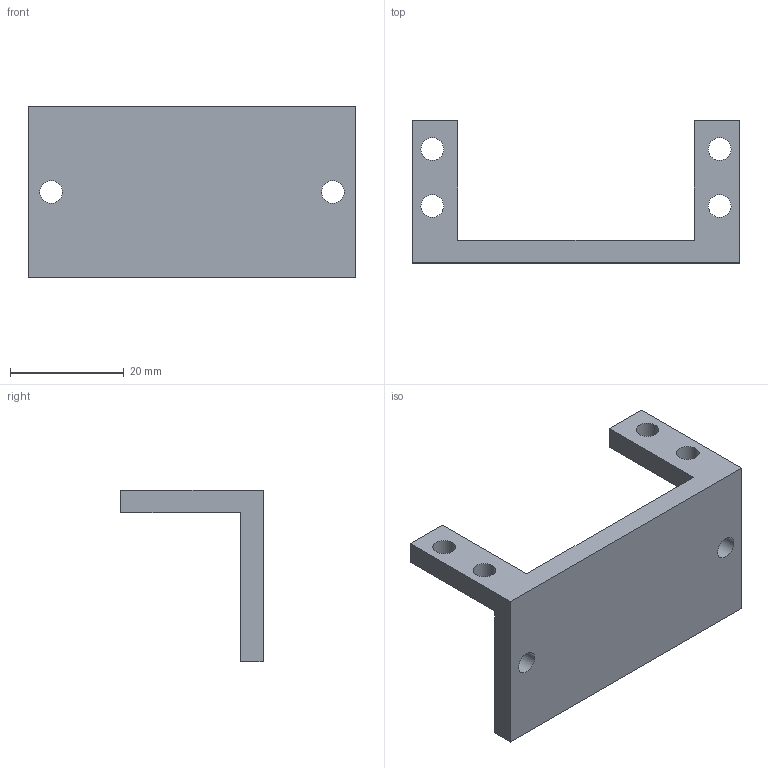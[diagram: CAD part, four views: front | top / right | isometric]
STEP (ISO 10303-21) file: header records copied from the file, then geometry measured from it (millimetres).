
FILE_DESCRIPTION(/* description */ ('STEP AP242','CAx-IF Rec.Pracs.---Representation and Presentation of Product Manufacturing Information (PMI)---4.0---2014-10-13','CAx-IF Rec.Pracs.---3D Tessellated Geometry---0.4---2014-09-14','2;1'),/* implementation_level */ '2;1');
FILE_NAME(/* name */ '65dac0fdf3c31e2e3b9e1f4e',/* time_stamp */ '2024-02-25T04:24:29Z',/* author */ (''),/* organization */ (''),/* preprocessor_version */ 'ST-DEVELOPER v19.4',/* originating_system */ ' ',/* authorisation */ ' ');
FILE_SCHEMA (('AP242_MANAGED_MODEL_BASED_3D_ENGINEERING_MIM_LF { 1 0 10303 442 1 1 4 }'));
Length unit declared in the file: metre
Products named in the file (1): Part 1
Bounding box: 57.5 x 25 x 30.2 mm (x, y, z)
Volume: 7988.4 mm3; surface area: 5333.4 mm2
Topology: 1 solids, 1 shells, 18 faces, 50 edges, 34 vertices
Faces by surface type: plane 12, cylinder 6
Full cylindrical faces by diameter (mm): 4 x6
Entity records: 580 total; most frequent: CARTESIAN_POINT 93, DIRECTION 92, ORIENTED_EDGE 84, EDGE_CURVE 42, EDGE_LOOP 36, FACE_BOUND 36, VERTEX_POINT 32, AXIS2_PLACEMENT_3D 31
